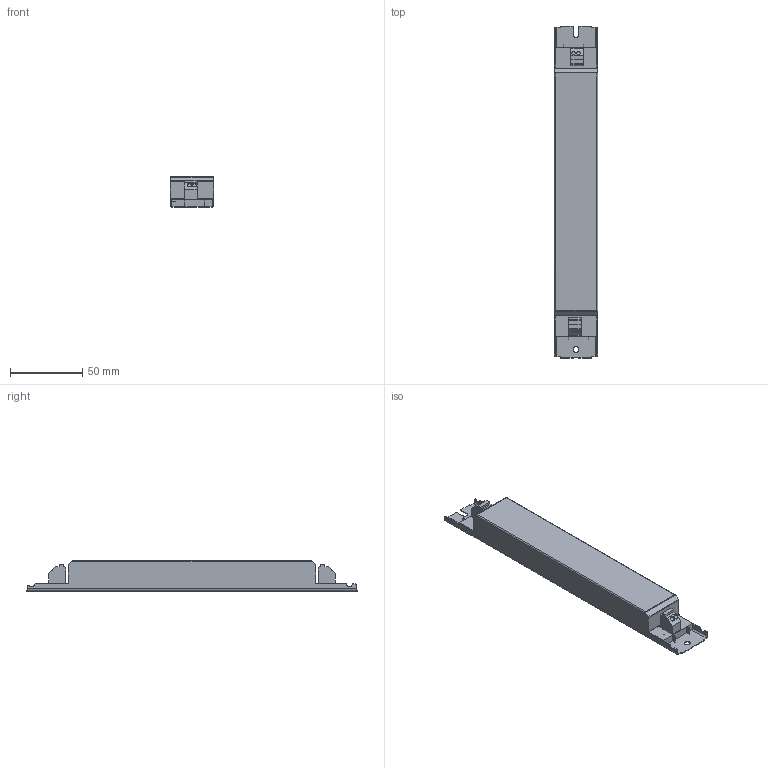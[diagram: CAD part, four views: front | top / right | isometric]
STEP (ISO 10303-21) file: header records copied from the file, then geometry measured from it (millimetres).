
FILE_DESCRIPTION((''),'2;1');
FILE_NAME('15012239_00','2018-03-29T',('Elon.Guo'),(''),'PRO/ENGINEER BY PARAMETRIC TECHNOLOGY CORPORATION, 2015200','PRO/ENGINEER BY PARAMETRIC TECHNOLOGY CORPORATION, 2015200','');
FILE_SCHEMA(('AUTOMOTIVE_DESIGN { 1 0 10303 214 1 1 1 1 }'));
Length unit declared in the file: millimetre
Products named in the file (1): 15012239_00
Bounding box: 30 x 230 x 21 mm (x, y, z)
Volume: 114797.8 mm3; surface area: 23435.9 mm2
Topology: 1 solids, 15 shells, 169 faces, 458 edges, 313 vertices
Faces by surface type: plane 104, cylinder 61, torus 4
Entity records: 7975 total; most frequent: CARTESIAN_POINT 1109, DIRECTION 904, ORIENTED_EDGE 890, PRESENTATION_STYLE_ASSIGNMENT 525, STYLED_ITEM 472, CURVE_STYLE 458, EDGE_CURVE 458, VERTEX_POINT 313
